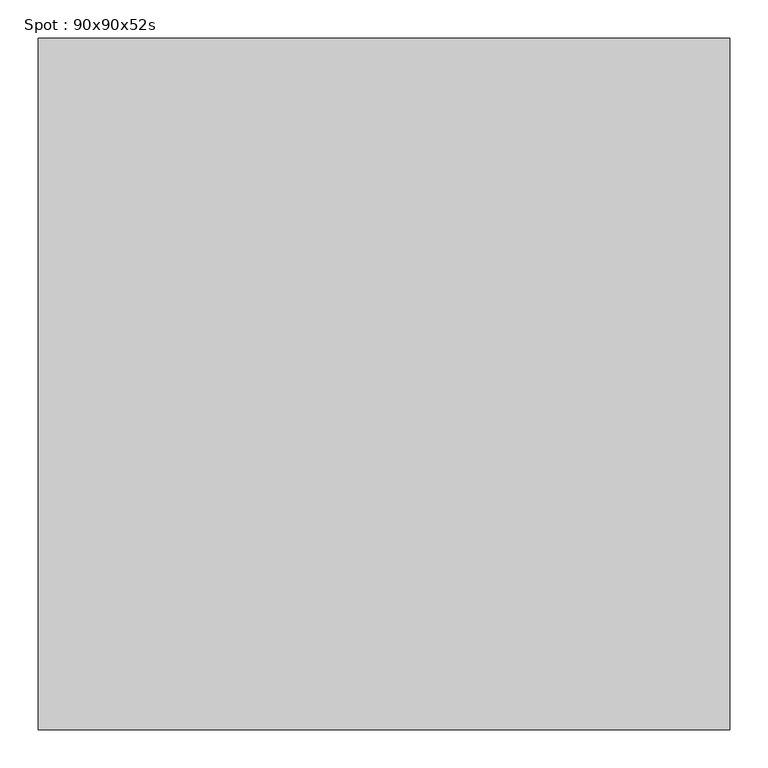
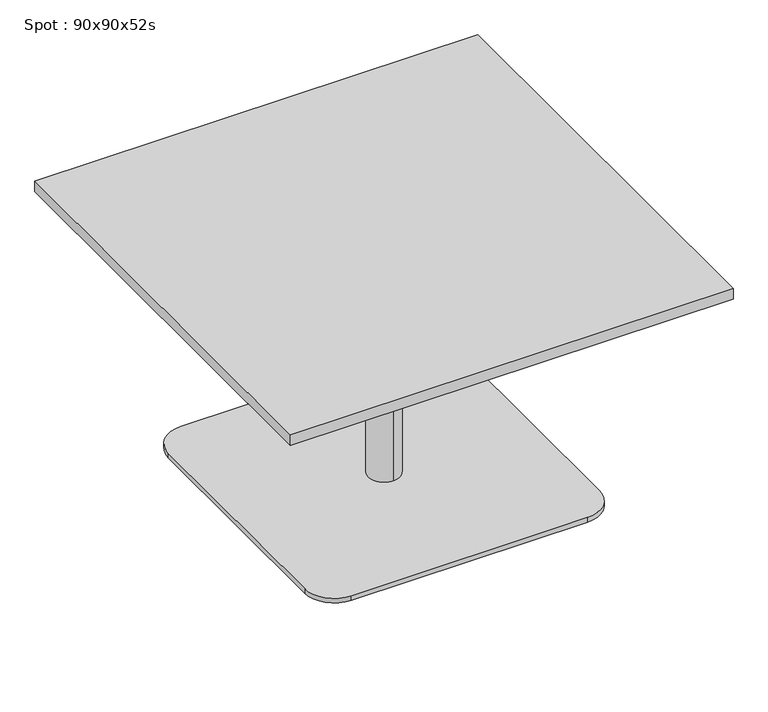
"""IFC4 building model written with IfcOpenShell, lengths in millimetres: furniture geometry, Spot : 90x90x52s."""

from ifc_helpers import new_model, si_unit, point, frame, frame_2d, origin, origin_with_axes, place, context, project, spatial, polyline, circle_curve, trimmed, segment, composite_curve, outline, extrude, source, transform, mapped, element, save
from ifc_brep_helpers import plane_surface, cylinder_surface, revolved_surface, advanced_brep


def spot_90x90x52s_cfe0d6f2(model_context):
    return source(origin(), model_context, "Body", "SolidModel", [
        extrude(outline(polyline([(450.0, 450.0), (450.0, -450.0), (-450.0, -450.0), (-450.0, 450.0), (450.0, 450.0)])), frame((0.0, 0.0, 498.0), z_axis=(0.0, 0.0, 1.0), x_axis=(1.0, 0.0, 0.0)), (0.0, 0.0, 1.0), 22.0),
        extrude(outline(composite_curve([segment(trimmed(circle_curve(frame_2d((240.0, 240.0)), 60.0), [point((240.0, 300.0))], [point((300.0, 240.0))], False, "CARTESIAN"), True, "CONTINUOUS"), segment(polyline([(300.0, 240.0), (300.0, -240.0)]), True, "CONTINUOUS"), segment(trimmed(circle_curve(frame_2d((240.0, -240.0)), 60.0), [point((300.0, -240.0))], [point((240.0, -300.0))], False, "CARTESIAN"), True, "CONTINUOUS"), segment(polyline([(240.0, -300.0), (-240.0, -300.0)]), True, "CONTINUOUS"), segment(trimmed(circle_curve(frame_2d((-240.0, -240.0)), 60.0), [point((-240.0, -300.0))], [point((-300.0, -240.0))], False, "CARTESIAN"), True, "CONTINUOUS"), segment(polyline([(-300.0, -240.0), (-300.0, 240.0)]), True, "CONTINUOUS"), segment(trimmed(circle_curve(frame_2d((-240.0, 240.0)), 60.0), [point((-300.0, 240.0))], [point((-240.0, 300.0))], False, "CARTESIAN"), True, "CONTINUOUS"), segment(polyline([(-240.0, 300.0), (240.0, 300.0)]), True, "CONTINUOUS")], self_intersect=False)), origin_with_axes(), (0.0, 0.0, 1.0), 10.0),
        advanced_brep(
        [(0.0, 32.0, 10.0), (0.0, -32.0, 10.0), (0.0, -32.0, 467.406916), (0.0, 32.0, 467.406916), (0.0, 0.0, 10.0), (0.0, 150.0, 498.0), (0.0, -150.0, 498.0), (0.0, 0.0, 498.0), (0.0, 150.0, 486.7213673), (0.0, -150.0, 486.7213673)],
        [
            (0, 1, circle_curve(frame((0.0, 0.0, 10.0), z_axis=(0.0, 0.0, 1.0), x_axis=(0.0, -1.0, 0.0)), 32.0)),
            (1, 2),
            (2, 3, circle_curve(frame((0.0, 0.0, 467.406916), z_axis=(0.0, 0.0, -1.0), x_axis=(0.0, -1.0, 0.0)), 32.0)),
            (3, 0),
            (1, 0, circle_curve(frame((0.0, 0.0, 10.0), z_axis=(0.0, 0.0, 1.0), x_axis=(0.0, -1.0, 0.0)), 32.0)),
            (3, 2, circle_curve(frame((0.0, 0.0, 467.406916), z_axis=(0.0, 0.0, -1.0), x_axis=(0.0, -1.0, 0.0)), 32.0)),
            (4, 1),
            (0, 4),
            (5, 6, circle_curve(frame((0.0, 0.0, 498.0), z_axis=(0.0, 0.0, 1.0), x_axis=(0.0, -1.0, 0.0)), 150.0)),
            (6, 7),
            (7, 5),
            (6, 5, circle_curve(frame((0.0, 0.0, 498.0), z_axis=(0.0, 0.0, 1.0), x_axis=(0.0, -1.0, 0.0)), 150.0)),
            (8, 9, circle_curve(frame((0.0, 0.0, 486.7213673), z_axis=(0.0, 0.0, 1.0), x_axis=(0.0, -1.0, 0.0)), 150.0)),
            (9, 6),
            (5, 8),
            (9, 8, circle_curve(frame((0.0, 0.0, 486.7213673), z_axis=(0.0, 0.0, 1.0), x_axis=(0.0, -1.0, 0.0)), 150.0)),
            (2, 9),
            (8, 3),
        ],
        [
            cylinder_surface(frame((0.0, 0.0, 860.0), z_axis=(0.0, 0.0, -1.0), x_axis=(0.0, -1.0, 0.0)), 32.0),
            plane_surface(frame((0.0, 0.0, 10.0), z_axis=(0.0, 0.0, -1.0), x_axis=(0.0, -1.0, 0.0))),
            plane_surface(frame((0.0, 0.0, 498.0), z_axis=(0.0, 0.0, 1.0), x_axis=(0.0, -1.0, 0.0))),
            cylinder_surface(frame((0.0, 0.0, 860.0), z_axis=(0.0, 0.0, -1.0), x_axis=(0.0, -1.0, 0.0)), 150.0),
            revolved_surface(polyline([(0.0, -150.0, 486.7213673), (0.0, -32.0, 467.406916)]), (0.0, 0.0, 860.0), (0.0, 0.0, -1.0)),
        ],
        [
            (0, [[1, 2, 3, 4]]),
            (0, [[5, -4, 6, -2]]),
            (1, [[7, -1, 8]]),
            (1, [[-8, -5, -7]]),
            (2, [[9, 10, 11]]),
            (2, [[12, -11, -10]]),
            (3, [[13, 14, -9, 15]]),
            (3, [[16, -15, -12, -14]]),
            (4, [[-3, 17, -13, 18]]),
            (4, [[-6, -18, -16, -17]]),
        ],
    ),
        extrude(outline(polyline([(0.0, 0.0), (-20.0, 0.0), (-20.0, 20.0), (0.0, 20.0), (0.0, 0.0)])), origin_with_axes(), (0.0, 0.0, 1.0), 10.0),
    ])


if __name__ == "__main__":
    model = new_model("IFC4")
    model_context = context("Model", 3, world=origin())
    ifc_project = project(units=[si_unit("LENGTHUNIT", "METRE", prefix="MILLI")], contexts=[model_context])
    site = spatial("IfcSite", under=ifc_project)
    building = spatial("IfcBuilding", under=site)
    placement = place(None, origin())
    spot_90x90x52s_shape = spot_90x90x52s_cfe0d6f2(model_context)
    element("IfcFurniture", 1, ObjectType="Spot : 90x90x52s", at=placement, inside=building, context=model_context, shape_type="MappedRepresentation", body=[
        mapped(spot_90x90x52s_shape, transform((0.0, 0.0, 0.0), x_axis=(1.0, 0.0, 0.0), y_axis=(0.0, 1.0, 0.0), z_axis=(0.0, 0.0, 1.0))),
    ])
    save(model, "model.ifc")
